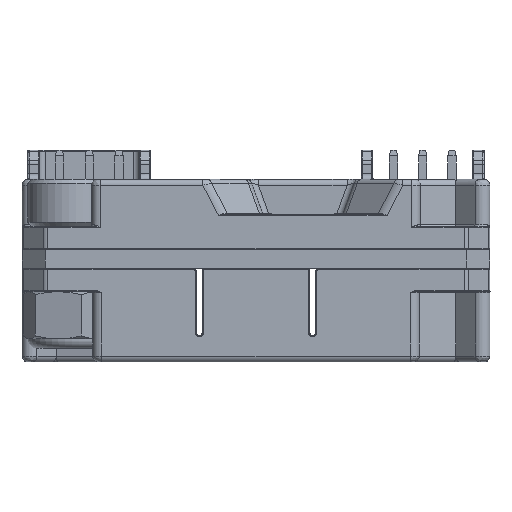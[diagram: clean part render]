
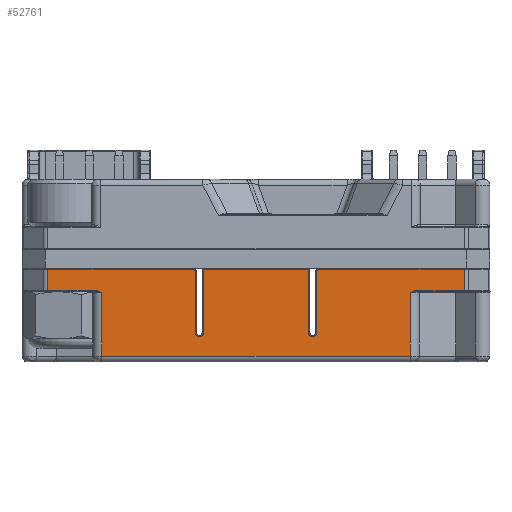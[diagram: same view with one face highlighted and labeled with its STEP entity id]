
A CAD part, front view. The second image highlights one B-rep face of the part: STEP entity #52761.
In plain terms, the highlighted planar face has unit normal (0, -1, 0).
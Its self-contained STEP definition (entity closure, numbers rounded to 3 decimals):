
#180=B_SPLINE_CURVE_WITH_KNOTS('',3,(#83128,#83129,#83130,#83131,#83132,
#83133,#83134,#83135,#83136,#83137,#83138,#83139,#83140,#83141,#83142,#83143),
 .UNSPECIFIED.,.F.,.F.,(4,3,3,3,3,4),(0.,0.,0.,
0.,0.,0.001),
 .UNSPECIFIED.);
#188=B_SPLINE_CURVE_WITH_KNOTS('',3,(#83656,#83657,#83658,#83659,#83660,
#83661,#83662,#83663,#83664,#83665,#83666,#83667,#83668,#83669,#83670,#83671),
 .UNSPECIFIED.,.F.,.F.,(4,3,3,3,3,4),(0.,0.,0.,
0.,0.,0.001),
 .UNSPECIFIED.);
#3537=PLANE('',#58129);
#5872=FACE_OUTER_BOUND('',#9551,.T.);
#9551=EDGE_LOOP('',(#43959,#43960,#43961,#43962,#43963,#43964,#43965,#43966,
#43967,#43968,#43969,#43970,#43971,#43972,#43973,#43974,#43975,#43976,#43977,
#43978,#43979,#43980));
#12080=LINE('',#82027,#16023);
#12083=LINE('',#82044,#16026);
#12094=LINE('',#82076,#16037);
#12251=LINE('',#83000,#16194);
#12253=LINE('',#83015,#16196);
#12263=LINE('',#83172,#16206);
#12273=LINE('',#83241,#16216);
#12324=LINE('',#83610,#16267);
#12349=LINE('',#83860,#16292);
#12350=LINE('',#83868,#16293);
#12368=LINE('',#83910,#16311);
#12846=LINE('',#86928,#16789);
#13674=LINE('',#90890,#17617);
#13675=LINE('',#90893,#17618);
#16023=VECTOR('',#65385,5.25);
#16026=VECTOR('',#65404,8.7);
#16037=VECTOR('',#65449,5.25);
#16194=VECTOR('',#66250,1.8);
#16196=VECTOR('',#66270,12.443);
#16206=VECTOR('',#66384,4.041);
#16216=VECTOR('',#66434,5.25);
#16267=VECTOR('',#66739,4.041);
#16292=VECTOR('',#66902,12.443);
#16293=VECTOR('',#66913,1.8);
#16311=VECTOR('',#66963,5.25);
#16789=VECTOR('',#69865,26.408);
#17617=VECTOR('',#71557,5.4);
#17618=VECTOR('',#71562,5.4);
#19360=CIRCLE('',#55844,0.15);
#19364=CIRCLE('',#55850,0.15);
#19569=CIRCLE('',#56193,0.15);
#19727=CIRCLE('',#56466,0.15);
#19800=CIRCLE('',#56625,0.35);
#19803=CIRCLE('',#56630,0.35);
#23080=VERTEX_POINT('',#82025);
#23081=VERTEX_POINT('',#82026);
#23084=VERTEX_POINT('',#82034);
#23086=VERTEX_POINT('',#82040);
#23088=VERTEX_POINT('',#82046);
#23091=VERTEX_POINT('',#82075);
#23321=VERTEX_POINT('',#82997);
#23322=VERTEX_POINT('',#82999);
#23325=VERTEX_POINT('',#83009);
#23326=VERTEX_POINT('',#83011);
#23343=VERTEX_POINT('',#83084);
#23345=VERTEX_POINT('',#83127);
#23354=VERTEX_POINT('',#83239);
#23433=VERTEX_POINT('',#83593);
#23439=VERTEX_POINT('',#83608);
#23442=VERTEX_POINT('',#83633);
#23486=VERTEX_POINT('',#83850);
#23488=VERTEX_POINT('',#83856);
#23490=VERTEX_POINT('',#83862);
#23499=VERTEX_POINT('',#83909);
#24171=VERTEX_POINT('',#86918);
#24173=VERTEX_POINT('',#86924);
#28597=EDGE_CURVE('',#23080,#23081,#12080,.T.);
#28603=EDGE_CURVE('',#23084,#23080,#19360,.F.);
#28606=EDGE_CURVE('',#23086,#23084,#12083,.F.);
#28609=EDGE_CURVE('',#23088,#23086,#19364,.F.);
#28622=EDGE_CURVE('',#23091,#23088,#12094,.T.);
#28983=EDGE_CURVE('',#23322,#23321,#12251,.F.);
#28990=EDGE_CURVE('',#23325,#23326,#19569,.F.);
#28991=EDGE_CURVE('',#23321,#23325,#12253,.F.);
#29030=EDGE_CURVE('',#23343,#23345,#180,.F.);
#29035=EDGE_CURVE('',#23345,#23322,#12263,.F.);
#29055=EDGE_CURVE('',#23326,#23354,#12273,.T.);
#29188=EDGE_CURVE('',#23433,#23439,#12324,.F.);
#29194=EDGE_CURVE('',#23439,#23442,#188,.T.);
#29263=EDGE_CURVE('',#23488,#23486,#12349,.F.);
#29266=EDGE_CURVE('',#23490,#23488,#19727,.F.);
#29267=EDGE_CURVE('',#23486,#23433,#12350,.F.);
#29288=EDGE_CURVE('',#23499,#23490,#12368,.F.);
#29454=EDGE_CURVE('',#23081,#23499,#19800,.T.);
#29457=EDGE_CURVE('',#23354,#23091,#19803,.T.);
#30508=EDGE_CURVE('',#24173,#24171,#12846,.T.);
#31605=EDGE_CURVE('',#23343,#24171,#13674,.T.);
#31606=EDGE_CURVE('',#23442,#24173,#13675,.T.);
#43959=ORIENTED_EDGE('',*,*,#29454,.T.);
#43960=ORIENTED_EDGE('',*,*,#29288,.T.);
#43961=ORIENTED_EDGE('',*,*,#29266,.T.);
#43962=ORIENTED_EDGE('',*,*,#29263,.T.);
#43963=ORIENTED_EDGE('',*,*,#29267,.T.);
#43964=ORIENTED_EDGE('',*,*,#29188,.T.);
#43965=ORIENTED_EDGE('',*,*,#29194,.T.);
#43966=ORIENTED_EDGE('',*,*,#31606,.T.);
#43967=ORIENTED_EDGE('',*,*,#30508,.T.);
#43968=ORIENTED_EDGE('',*,*,#31605,.F.);
#43969=ORIENTED_EDGE('',*,*,#29030,.T.);
#43970=ORIENTED_EDGE('',*,*,#29035,.T.);
#43971=ORIENTED_EDGE('',*,*,#28983,.T.);
#43972=ORIENTED_EDGE('',*,*,#28991,.T.);
#43973=ORIENTED_EDGE('',*,*,#28990,.T.);
#43974=ORIENTED_EDGE('',*,*,#29055,.T.);
#43975=ORIENTED_EDGE('',*,*,#29457,.T.);
#43976=ORIENTED_EDGE('',*,*,#28622,.T.);
#43977=ORIENTED_EDGE('',*,*,#28609,.T.);
#43978=ORIENTED_EDGE('',*,*,#28606,.T.);
#43979=ORIENTED_EDGE('',*,*,#28603,.T.);
#43980=ORIENTED_EDGE('',*,*,#28597,.T.);
#52761=ADVANCED_FACE('',(#5872),#3537,.F.);
#55844=AXIS2_PLACEMENT_3D('',#82038,#65397,#65398);
#55850=AXIS2_PLACEMENT_3D('',#82050,#65411,#65412);
#56193=AXIS2_PLACEMENT_3D('',#83013,#66266,#66267);
#56466=AXIS2_PLACEMENT_3D('',#83866,#66909,#66910);
#56625=AXIS2_PLACEMENT_3D('',#84630,#67310,#67311);
#56630=AXIS2_PLACEMENT_3D('',#84635,#67320,#67321);
#58129=AXIS2_PLACEMENT_3D('',#90892,#71560,#71561);
#65385=DIRECTION('',(0.,0.,-1.));
#65397=DIRECTION('center_axis',(0.,1.,0.));
#65398=DIRECTION('ref_axis',(0.,0.,1.));
#65404=DIRECTION('',(1.,0.,0.));
#65411=DIRECTION('center_axis',(0.,1.,0.));
#65412=DIRECTION('ref_axis',(0.,0.,1.));
#65449=DIRECTION('',(0.,0.,1.));
#66250=DIRECTION('',(0.,0.,-1.));
#66266=DIRECTION('center_axis',(0.,1.,0.));
#66267=DIRECTION('ref_axis',(0.,0.,1.));
#66270=DIRECTION('',(1.,0.,0.));
#66384=DIRECTION('',(-1.,0.,0.));
#66434=DIRECTION('',(0.,0.,-1.));
#66739=DIRECTION('',(-1.,0.,0.));
#66902=DIRECTION('',(1.,0.,0.));
#66909=DIRECTION('center_axis',(0.,1.,0.));
#66910=DIRECTION('ref_axis',(0.,0.,1.));
#66913=DIRECTION('',(0.,0.,1.));
#66963=DIRECTION('',(0.,0.,-1.));
#67310=DIRECTION('center_axis',(0.,1.,0.));
#67311=DIRECTION('ref_axis',(0.,0.,1.));
#67320=DIRECTION('center_axis',(0.,1.,0.));
#67321=DIRECTION('ref_axis',(0.,0.,1.));
#69865=DIRECTION('',(1.,0.,0.));
#71557=DIRECTION('',(0.,0.,-1.));
#71560=DIRECTION('center_axis',(0.,1.,0.));
#71561=DIRECTION('ref_axis',(0.,0.,1.));
#71562=DIRECTION('',(0.,0.,-1.));
#82025=CARTESIAN_POINT('',(-4.5,-20.,7.75));
#82026=CARTESIAN_POINT('',(-4.5,-20.,2.5));
#82027=CARTESIAN_POINT('',(-4.5,-20.,7.75));
#82034=CARTESIAN_POINT('',(-4.35,-20.,7.9));
#82038=CARTESIAN_POINT('Origin',(-4.35,-20.,7.75));
#82040=CARTESIAN_POINT('',(4.35,-20.,7.9));
#82044=CARTESIAN_POINT('',(-4.35,-20.,7.9));
#82046=CARTESIAN_POINT('',(4.5,-20.,7.75));
#82050=CARTESIAN_POINT('Origin',(4.35,-20.,7.75));
#82075=CARTESIAN_POINT('',(4.5,-20.,2.5));
#82076=CARTESIAN_POINT('',(4.5,-20.,2.5));
#82997=CARTESIAN_POINT('',(17.793,-20.,7.9));
#82999=CARTESIAN_POINT('',(17.793,-20.,6.1));
#83000=CARTESIAN_POINT('',(17.793,-20.,7.9));
#83009=CARTESIAN_POINT('',(5.35,-20.,7.9));
#83011=CARTESIAN_POINT('',(5.2,-20.,7.75));
#83013=CARTESIAN_POINT('Origin',(5.35,-20.,7.75));
#83015=CARTESIAN_POINT('',(5.35,-20.,7.9));
#83084=CARTESIAN_POINT('',(13.204,-20.,5.9));
#83127=CARTESIAN_POINT('',(13.752,-20.,6.1));
#83128=CARTESIAN_POINT('Ctrl Pts',(13.752,-20.,6.1));
#83129=CARTESIAN_POINT('Ctrl Pts',(13.702,-20.,6.1));
#83130=CARTESIAN_POINT('Ctrl Pts',(13.654,-20.,6.093));
#83131=CARTESIAN_POINT('Ctrl Pts',(13.606,-20.,6.081));
#83132=CARTESIAN_POINT('Ctrl Pts',(13.558,-20.,6.069));
#83133=CARTESIAN_POINT('Ctrl Pts',(13.512,-20.,6.052));
#83134=CARTESIAN_POINT('Ctrl Pts',(13.466,-20.,6.033));
#83135=CARTESIAN_POINT('Ctrl Pts',(13.444,-20.,6.024));
#83136=CARTESIAN_POINT('Ctrl Pts',(13.421,-20.,6.014));
#83137=CARTESIAN_POINT('Ctrl Pts',(13.399,-20.,6.003));
#83138=CARTESIAN_POINT('Ctrl Pts',(13.366,-20.,5.987));
#83139=CARTESIAN_POINT('Ctrl Pts',(13.333,-20.,5.97));
#83140=CARTESIAN_POINT('Ctrl Pts',(13.301,-20.,5.953));
#83141=CARTESIAN_POINT('Ctrl Pts',(13.269,-20.,5.936));
#83142=CARTESIAN_POINT('Ctrl Pts',(13.236,-20.,5.918));
#83143=CARTESIAN_POINT('Ctrl Pts',(13.204,-20.,5.9));
#83172=CARTESIAN_POINT('',(17.793,-20.,6.1));
#83239=CARTESIAN_POINT('',(5.2,-20.,2.5));
#83241=CARTESIAN_POINT('',(5.2,-20.,7.75));
#83593=CARTESIAN_POINT('',(-17.793,-20.,6.1));
#83608=CARTESIAN_POINT('',(-13.752,-20.,6.1));
#83610=CARTESIAN_POINT('',(-13.752,-20.,6.1));
#83633=CARTESIAN_POINT('',(-13.204,-20.,5.9));
#83656=CARTESIAN_POINT('Ctrl Pts',(-13.752,-20.,6.1));
#83657=CARTESIAN_POINT('Ctrl Pts',(-13.702,-20.,6.1));
#83658=CARTESIAN_POINT('Ctrl Pts',(-13.654,-20.,6.093));
#83659=CARTESIAN_POINT('Ctrl Pts',(-13.606,-20.,6.081));
#83660=CARTESIAN_POINT('Ctrl Pts',(-13.558,-20.,6.069));
#83661=CARTESIAN_POINT('Ctrl Pts',(-13.512,-20.,
6.052));
#83662=CARTESIAN_POINT('Ctrl Pts',(-13.466,-20.,6.033));
#83663=CARTESIAN_POINT('Ctrl Pts',(-13.444,-20.,
6.024));
#83664=CARTESIAN_POINT('Ctrl Pts',(-13.421,-20.,
6.014));
#83665=CARTESIAN_POINT('Ctrl Pts',(-13.399,-20.,
6.003));
#83666=CARTESIAN_POINT('Ctrl Pts',(-13.366,-20.,5.987));
#83667=CARTESIAN_POINT('Ctrl Pts',(-13.333,-20.,5.97));
#83668=CARTESIAN_POINT('Ctrl Pts',(-13.301,-20.,5.953));
#83669=CARTESIAN_POINT('Ctrl Pts',(-13.269,-20.,
5.936));
#83670=CARTESIAN_POINT('Ctrl Pts',(-13.236,-20.,5.918));
#83671=CARTESIAN_POINT('Ctrl Pts',(-13.204,-20.,5.9));
#83850=CARTESIAN_POINT('',(-17.793,-20.,7.9));
#83856=CARTESIAN_POINT('',(-5.35,-20.,7.9));
#83860=CARTESIAN_POINT('',(-17.793,-20.,7.9));
#83862=CARTESIAN_POINT('',(-5.2,-20.,7.75));
#83866=CARTESIAN_POINT('Origin',(-5.35,-20.,7.75));
#83868=CARTESIAN_POINT('',(-17.793,-20.,6.1));
#83909=CARTESIAN_POINT('',(-5.2,-20.,2.5));
#83910=CARTESIAN_POINT('',(-5.2,-20.,7.75));
#84630=CARTESIAN_POINT('Origin',(-4.85,-20.,2.5));
#84635=CARTESIAN_POINT('Origin',(4.85,-20.,2.5));
#86918=CARTESIAN_POINT('',(13.204,-20.,0.5));
#86924=CARTESIAN_POINT('',(-13.204,-20.,0.5));
#86928=CARTESIAN_POINT('',(-13.204,-20.,0.5));
#90890=CARTESIAN_POINT('',(13.204,-20.,5.9));
#90892=CARTESIAN_POINT('Origin',(-20.,-20.,8.));
#90893=CARTESIAN_POINT('',(-13.204,-20.,5.9));
